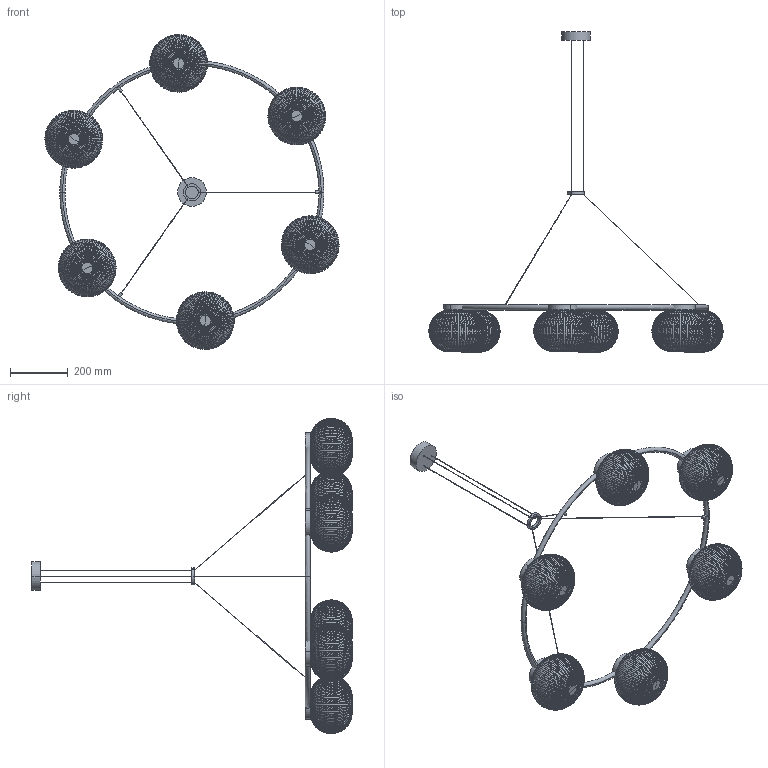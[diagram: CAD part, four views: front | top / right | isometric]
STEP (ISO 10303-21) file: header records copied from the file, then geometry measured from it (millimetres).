
FILE_DESCRIPTION (( 'STEP AP214' ), '1' );
FILE_NAME ('C1353-6-Abajo.SLDPRT.STEP', '2025-12-17T12:36:07', ( '' ), ( '' ), 'SwSTEP 2.0', 'SolidWorks 2023', '' );
FILE_SCHEMA (( 'AUTOMOTIVE_DESIGN' ));
Length unit declared in the file: millimetre
Products named in the file (3): C1353-6-Abajo.SLDPRT; Ensamblaje2-dadolavuelta; Bola
Assembly tree (7 placements, depth 2):
  C1353-6-Abajo.SLDPRT
    Ensamblaje2-dadolavuelta
    Bola  x6
Bounding box: 1022.36 x 1113.7 x 1095.86 mm (x, y, z)
Volume: 16089040.7 mm3; surface area: 1314811.3 mm2
Topology: 21 solids, 27 shells, 1601 faces, 3848 edges, 2554 vertices
Faces by surface type: bspline 1561, plane 14, cylinder 14, sphere 12
Entity records: 64367 total; most frequent: CARTESIAN_POINT 59461, ORIENTED_EDGE 1488, EDGE_CURVE 744, VERTEX_POINT 496, B_SPLINE_CURVE_WITH_KNOTS 466, EDGE_LOOP 384, ADVANCED_FACE 331, FACE_OUTER_BOUND 331
